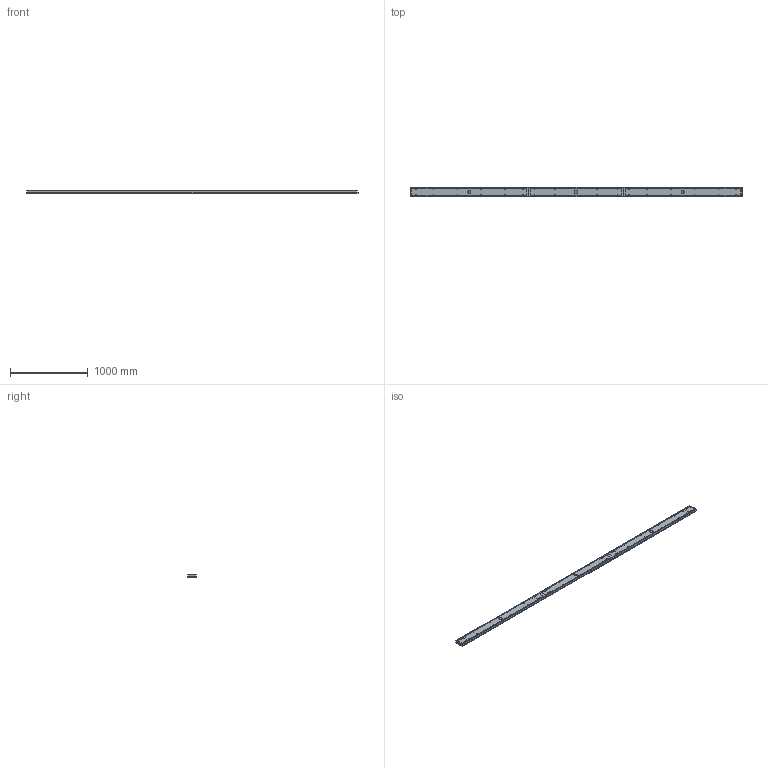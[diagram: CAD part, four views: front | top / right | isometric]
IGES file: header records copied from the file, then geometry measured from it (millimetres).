
Global section: file name: /Users/danielszollosi/Documents/SkLO/DEVELOPMENT/LIGHT 2024/MULTIPENDANT CANOPIES/Linear Multipendant Canopies/SkLO_Linear_Canopy_14'_MCL14/3D/SkLO_Linear_Canopy_14'_MCL014_3D.igs; native system: Rhinoceros ( Sep 24 2023 ); preprocessor: Trout Lake IGES 012 Sep 24 2023; date: 241018.201353; units: millimetre
Bounding box: 4270 x 127 x 28.3 mm (x, y, z)
Surface area: 2249646.3 mm2 (no closed solid volume)
Topology: 0 solids, 0 shells, 513 faces, 3231 edges, 2990 vertices
Faces by surface type: bspline 513
